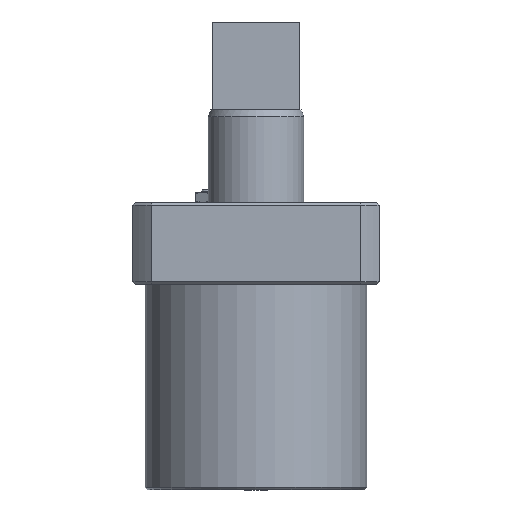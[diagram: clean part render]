
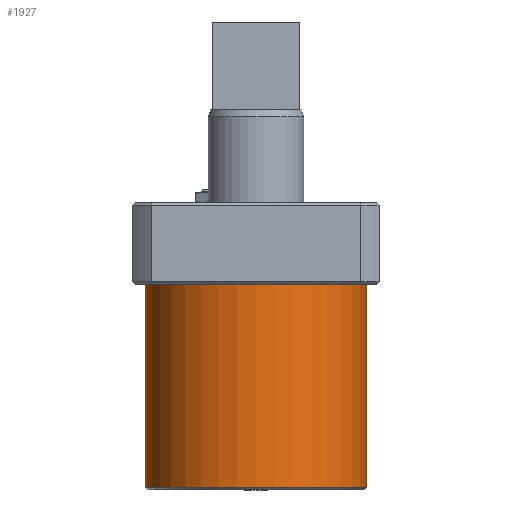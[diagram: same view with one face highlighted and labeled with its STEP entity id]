
A CAD part, left-side view. The second image highlights one B-rep face of the part: STEP entity #1927.
In plain terms, the highlighted cylindrical face has radius 40.5 mm (diameter 81 mm), a full revolution.
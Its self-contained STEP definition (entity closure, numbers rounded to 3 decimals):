
#153=CYLINDRICAL_SURFACE('',#2163,40.5);
#483=ORIENTED_EDGE('',*,*,#922,.T.);
#484=ORIENTED_EDGE('',*,*,#921,.F.);
#921=EDGE_CURVE('',#1156,#1156,#1321,.T.);
#922=EDGE_CURVE('',#1157,#1157,#1322,.T.);
#1156=VERTEX_POINT('',#3068);
#1157=VERTEX_POINT('',#3071);
#1321=CIRCLE('',#2162,40.5);
#1322=CIRCLE('',#2164,40.5);
#1462=EDGE_LOOP('',(#483));
#1463=EDGE_LOOP('',(#484));
#1682=FACE_BOUND('',#1462,.T.);
#1683=FACE_BOUND('',#1463,.T.);
#1927=ADVANCED_FACE('',(#1682,#1683),#153,.T.);
#2162=AXIS2_PLACEMENT_3D('',#3067,#2504,#2505);
#2163=AXIS2_PLACEMENT_3D('',#3069,#2506,#2507);
#2164=AXIS2_PLACEMENT_3D('',#3070,#2508,#2509);
#2504=DIRECTION('',(0.,0.,1.));
#2505=DIRECTION('',(0.,-1.,0.));
#2506=DIRECTION('',(0.,0.,1.));
#2507=DIRECTION('',(0.,-1.,0.));
#2508=DIRECTION('',(0.,0.,1.));
#2509=DIRECTION('',(1.,0.,0.));
#3067=CARTESIAN_POINT('',(0.,47.,-10.4));
#3068=CARTESIAN_POINT('',(0.,6.5,-10.4));
#3069=CARTESIAN_POINT('',(0.,47.,-85.4));
#3070=CARTESIAN_POINT('',(0.,47.,-84.4));
#3071=CARTESIAN_POINT('',(40.5,47.,-84.4));
